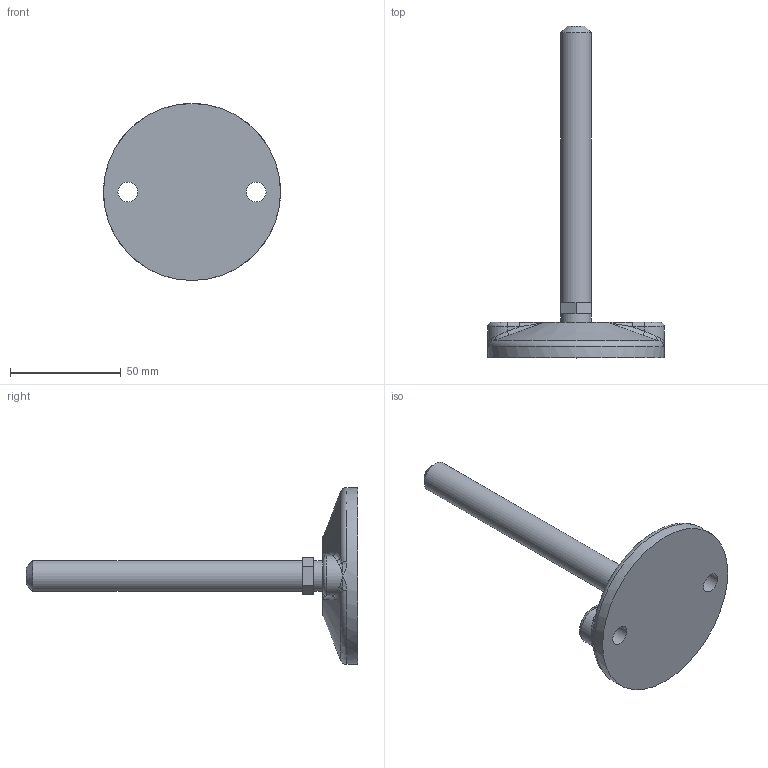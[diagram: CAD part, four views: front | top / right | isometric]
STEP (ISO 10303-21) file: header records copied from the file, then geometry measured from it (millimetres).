
FILE_DESCRIPTION (( 'STEP AP214' ), '1' );
FILE_NAME ('F21805.step', '2024-12-03T16:15:40', ( '' ), ( '' ), 'SwSTEP 2.0', 'SolidWorks 2023', '' );
FILE_SCHEMA (( 'AUTOMOTIVE_DESIGN' ));
Length unit declared in the file: millimetre
Products named in the file (1): F21805
Bounding box: 80 x 150 x 80 mm (x, y, z)
Volume: 81307.9 mm3; surface area: 18967.3 mm2
Topology: 1 solids, 1 shells, 59 faces, 139 edges, 77 vertices
Faces by surface type: bspline 24, plane 15, cylinder 11, torus 6, cone 3
Full cylindrical faces by diameter (mm): 9 x2, 14 x2, 80 x1
Entity records: 2463 total; most frequent: CARTESIAN_POINT 1308, ORIENTED_EDGE 248, DIRECTION 202, EDGE_CURVE 124, AXIS2_PLACEMENT_3D 86, VERTEX_POINT 76, EDGE_LOOP 72, FACE_OUTER_BOUND 64
